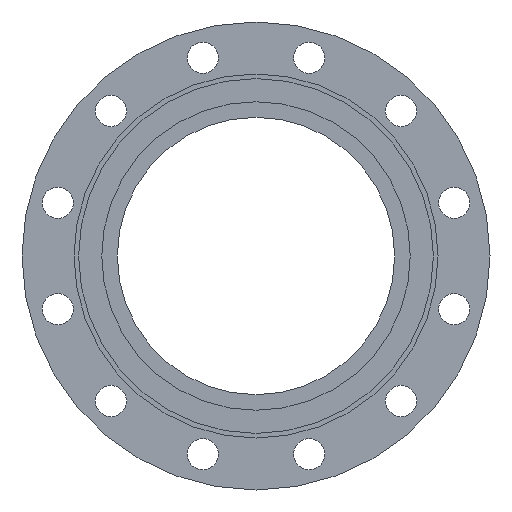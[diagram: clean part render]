
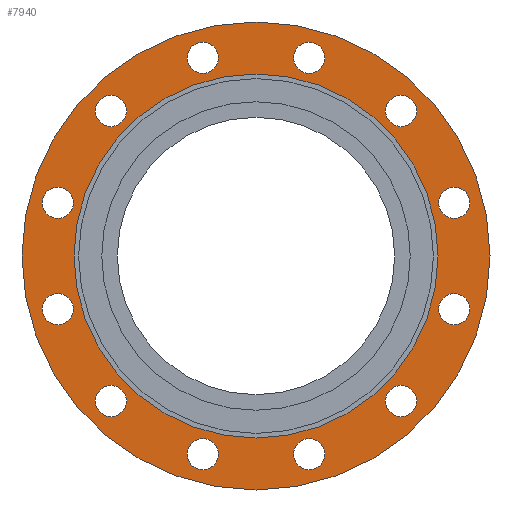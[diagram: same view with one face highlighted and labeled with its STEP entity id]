
A CAD part, left-side view. The second image highlights one B-rep face of the part: STEP entity #7940.
In plain terms, the highlighted planar face has unit normal (-1, 0, 0).
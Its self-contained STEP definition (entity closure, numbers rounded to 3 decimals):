
#7940=ADVANCED_FACE('',(#14289,#14291,#14293,#14295,#14297,#14299,#14301,#14303,
#14305,#14307,#14309,#14311,#14313,#14315),#14317,.T.);
#14289=FACE_BOUND('',#14290,.T.);
#14290=EDGE_LOOP('',(#19540,#19541));
#14291=FACE_BOUND('',#14292,.T.);
#14292=EDGE_LOOP('',(#19542));
#14293=FACE_BOUND('',#14294,.T.);
#14294=EDGE_LOOP('',(#19543));
#14295=FACE_BOUND('',#14296,.T.);
#14296=EDGE_LOOP('',(#19544));
#14297=FACE_BOUND('',#14298,.T.);
#14298=EDGE_LOOP('',(#19545));
#14299=FACE_BOUND('',#14300,.T.);
#14300=EDGE_LOOP('',(#19546));
#14301=FACE_BOUND('',#14302,.T.);
#14302=EDGE_LOOP('',(#19547));
#14303=FACE_BOUND('',#14304,.T.);
#14304=EDGE_LOOP('',(#19548));
#14305=FACE_BOUND('',#14306,.T.);
#14306=EDGE_LOOP('',(#19549));
#14307=FACE_BOUND('',#14308,.T.);
#14308=EDGE_LOOP('',(#19550));
#14309=FACE_BOUND('',#14310,.T.);
#14310=EDGE_LOOP('',(#19551));
#14311=FACE_BOUND('',#14312,.T.);
#14312=EDGE_LOOP('',(#19552));
#14313=FACE_BOUND('',#14314,.T.);
#14314=EDGE_LOOP('',(#19553));
#14315=FACE_BOUND('',#14316,.T.);
#14316=EDGE_LOOP('',(#19554,#19555));
#14317=PLANE('',#14318);
#14318=AXIS2_PLACEMENT_3D('',#14319,#14320,#14321);
#14319=CARTESIAN_POINT('',(41.075,214.508,0.));
#14320=DIRECTION('',(-1.,0.,0.));
#14321=DIRECTION('',(0.,0.,1.));
#19540=ORIENTED_EDGE('',*,*,#22182,.F.);
#19541=ORIENTED_EDGE('',*,*,#22183,.F.);
#19542=ORIENTED_EDGE('',*,*,#22106,.T.);
#19543=ORIENTED_EDGE('',*,*,#22108,.T.);
#19544=ORIENTED_EDGE('',*,*,#22110,.T.);
#19545=ORIENTED_EDGE('',*,*,#22112,.T.);
#19546=ORIENTED_EDGE('',*,*,#22114,.T.);
#19547=ORIENTED_EDGE('',*,*,#22140,.T.);
#19548=ORIENTED_EDGE('',*,*,#22142,.T.);
#19549=ORIENTED_EDGE('',*,*,#22144,.T.);
#19550=ORIENTED_EDGE('',*,*,#22146,.T.);
#19551=ORIENTED_EDGE('',*,*,#22148,.T.);
#19552=ORIENTED_EDGE('',*,*,#22150,.T.);
#19553=ORIENTED_EDGE('',*,*,#22104,.T.);
#19554=ORIENTED_EDGE('',*,*,#22181,.T.);
#19555=ORIENTED_EDGE('',*,*,#22180,.T.);
#22104=EDGE_CURVE('',#26285,#26285,#26286,.T.);
#22106=EDGE_CURVE('',#26289,#26289,#26290,.T.);
#22108=EDGE_CURVE('',#26293,#26293,#26294,.T.);
#22110=EDGE_CURVE('',#26297,#26297,#26298,.T.);
#22112=EDGE_CURVE('',#26301,#26301,#26302,.T.);
#22114=EDGE_CURVE('',#26305,#26305,#26306,.T.);
#22140=EDGE_CURVE('',#26357,#26357,#26358,.T.);
#22142=EDGE_CURVE('',#26361,#26361,#26362,.T.);
#22144=EDGE_CURVE('',#26365,#26365,#26366,.T.);
#22146=EDGE_CURVE('',#26369,#26369,#26370,.T.);
#22148=EDGE_CURVE('',#26373,#26373,#26374,.T.);
#22150=EDGE_CURVE('',#26377,#26377,#26378,.T.);
#22180=EDGE_CURVE('',#26437,#26438,#26439,.T.);
#22181=EDGE_CURVE('',#26438,#26437,#26440,.T.);
#22182=EDGE_CURVE('',#26441,#26442,#26443,.T.);
#22183=EDGE_CURVE('',#26442,#26441,#26444,.T.);
#26285=VERTEX_POINT('',#35461);
#26286=CIRCLE('',#35462,13.5);
#26289=VERTEX_POINT('',#35471);
#26290=CIRCLE('',#35472,13.5);
#26293=VERTEX_POINT('',#35481);
#26294=CIRCLE('',#35482,13.5);
#26297=VERTEX_POINT('',#35491);
#26298=CIRCLE('',#35492,13.5);
#26301=VERTEX_POINT('',#35501);
#26302=CIRCLE('',#35502,13.5);
#26305=VERTEX_POINT('',#35511);
#26306=CIRCLE('',#35512,13.5);
#26357=VERTEX_POINT('',#35641);
#26358=CIRCLE('',#35642,13.5);
#26361=VERTEX_POINT('',#35651);
#26362=CIRCLE('',#35652,13.5);
#26365=VERTEX_POINT('',#35661);
#26366=CIRCLE('',#35662,13.5);
#26369=VERTEX_POINT('',#35671);
#26370=CIRCLE('',#35672,13.5);
#26373=VERTEX_POINT('',#35681);
#26374=CIRCLE('',#35682,13.5);
#26377=VERTEX_POINT('',#35691);
#26378=CIRCLE('',#35692,13.5);
#26437=VERTEX_POINT('',#35841);
#26438=VERTEX_POINT('',#35842);
#26439=CIRCLE('',#35843,157.5);
#26440=CIRCLE('',#35847,157.5);
#26441=VERTEX_POINT('',#35851);
#26442=VERTEX_POINT('',#35852);
#26443=CIRCLE('',#35853,202.5);
#26444=CIRCLE('',#35857,202.5);
#35461=CARTESIAN_POINT('',(41.075,169.96,-45.94));
#35462=AXIS2_PLACEMENT_3D('',#35463,#35464,#35465);
#35463=CARTESIAN_POINT('',(41.075,183.46,-45.94));
#35464=DIRECTION('',(1.,0.,0.));
#35465=DIRECTION('',(0.,-1.,0.));
#35471=CARTESIAN_POINT('',(41.075,124.02,125.511));
#35472=AXIS2_PLACEMENT_3D('',#35473,#35474,#35475);
#35473=CARTESIAN_POINT('',(41.075,137.52,125.511));
#35474=DIRECTION('',(1.,0.,0.));
#35475=DIRECTION('',(0.,-1.,0.));
#35481=CARTESIAN_POINT('',(41.075,-47.432,171.452));
#35482=AXIS2_PLACEMENT_3D('',#35483,#35484,#35485);
#35483=CARTESIAN_POINT('',(41.075,-33.932,171.452));
#35484=DIRECTION('',(1.,0.,0.));
#35485=DIRECTION('',(0.,-1.,0.));
#35491=CARTESIAN_POINT('',(41.075,-172.944,45.94));
#35492=AXIS2_PLACEMENT_3D('',#35493,#35494,#35495);
#35493=CARTESIAN_POINT('',(41.075,-159.444,45.94));
#35494=DIRECTION('',(1.,0.,0.));
#35495=DIRECTION('',(0.,-1.,0.));
#35501=CARTESIAN_POINT('',(41.075,-127.003,-125.511));
#35502=AXIS2_PLACEMENT_3D('',#35503,#35504,#35505);
#35503=CARTESIAN_POINT('',(41.075,-113.503,-125.511));
#35504=DIRECTION('',(1.,0.,0.));
#35505=DIRECTION('',(0.,-1.,0.));
#35511=CARTESIAN_POINT('',(41.075,44.449,-171.452));
#35512=AXIS2_PLACEMENT_3D('',#35513,#35514,#35515);
#35513=CARTESIAN_POINT('',(41.075,57.949,-171.452));
#35514=DIRECTION('',(1.,0.,0.));
#35515=DIRECTION('',(0.,-1.,0.));
#35641=CARTESIAN_POINT('',(41.075,-47.432,-171.452));
#35642=AXIS2_PLACEMENT_3D('',#35643,#35644,#35645);
#35643=CARTESIAN_POINT('',(41.075,-33.932,-171.452));
#35644=DIRECTION('',(1.,0.,0.));
#35645=DIRECTION('',(0.,-1.,0.));
#35651=CARTESIAN_POINT('',(41.075,-172.944,-45.94));
#35652=AXIS2_PLACEMENT_3D('',#35653,#35654,#35655);
#35653=CARTESIAN_POINT('',(41.075,-159.444,-45.94));
#35654=DIRECTION('',(1.,0.,0.));
#35655=DIRECTION('',(0.,-1.,0.));
#35661=CARTESIAN_POINT('',(41.075,-127.003,125.511));
#35662=AXIS2_PLACEMENT_3D('',#35663,#35664,#35665);
#35663=CARTESIAN_POINT('',(41.075,-113.503,125.511));
#35664=DIRECTION('',(1.,0.,0.));
#35665=DIRECTION('',(0.,-1.,0.));
#35671=CARTESIAN_POINT('',(41.075,44.449,171.452));
#35672=AXIS2_PLACEMENT_3D('',#35673,#35674,#35675);
#35673=CARTESIAN_POINT('',(41.075,57.949,171.452));
#35674=DIRECTION('',(1.,0.,0.));
#35675=DIRECTION('',(0.,-1.,0.));
#35681=CARTESIAN_POINT('',(41.075,169.96,45.94));
#35682=AXIS2_PLACEMENT_3D('',#35683,#35684,#35685);
#35683=CARTESIAN_POINT('',(41.075,183.46,45.94));
#35684=DIRECTION('',(1.,0.,0.));
#35685=DIRECTION('',(0.,-1.,0.));
#35691=CARTESIAN_POINT('',(41.075,124.02,-125.511));
#35692=AXIS2_PLACEMENT_3D('',#35693,#35694,#35695);
#35693=CARTESIAN_POINT('',(41.075,137.52,-125.511));
#35694=DIRECTION('',(1.,0.,0.));
#35695=DIRECTION('',(0.,-1.,0.));
#35841=CARTESIAN_POINT('',(41.075,-145.492,0.));
#35842=CARTESIAN_POINT('',(41.075,169.508,0.));
#35843=AXIS2_PLACEMENT_3D('',#35844,#35845,#35846);
#35844=CARTESIAN_POINT('',(41.075,12.008,0.));
#35845=DIRECTION('',(1.,0.,0.));
#35846=DIRECTION('',(0.,-1.,0.));
#35847=AXIS2_PLACEMENT_3D('',#35848,#35849,#35850);
#35848=CARTESIAN_POINT('',(41.075,12.008,0.));
#35849=DIRECTION('',(1.,0.,0.));
#35850=DIRECTION('',(0.,1.,0.));
#35851=CARTESIAN_POINT('',(41.075,-190.492,0.));
#35852=CARTESIAN_POINT('',(41.075,214.508,0.));
#35853=AXIS2_PLACEMENT_3D('',#35854,#35855,#35856);
#35854=CARTESIAN_POINT('',(41.075,12.008,0.));
#35855=DIRECTION('',(1.,0.,0.));
#35856=DIRECTION('',(0.,-1.,0.));
#35857=AXIS2_PLACEMENT_3D('',#35858,#35859,#35860);
#35858=CARTESIAN_POINT('',(41.075,12.008,0.));
#35859=DIRECTION('',(1.,0.,0.));
#35860=DIRECTION('',(0.,1.,0.));
